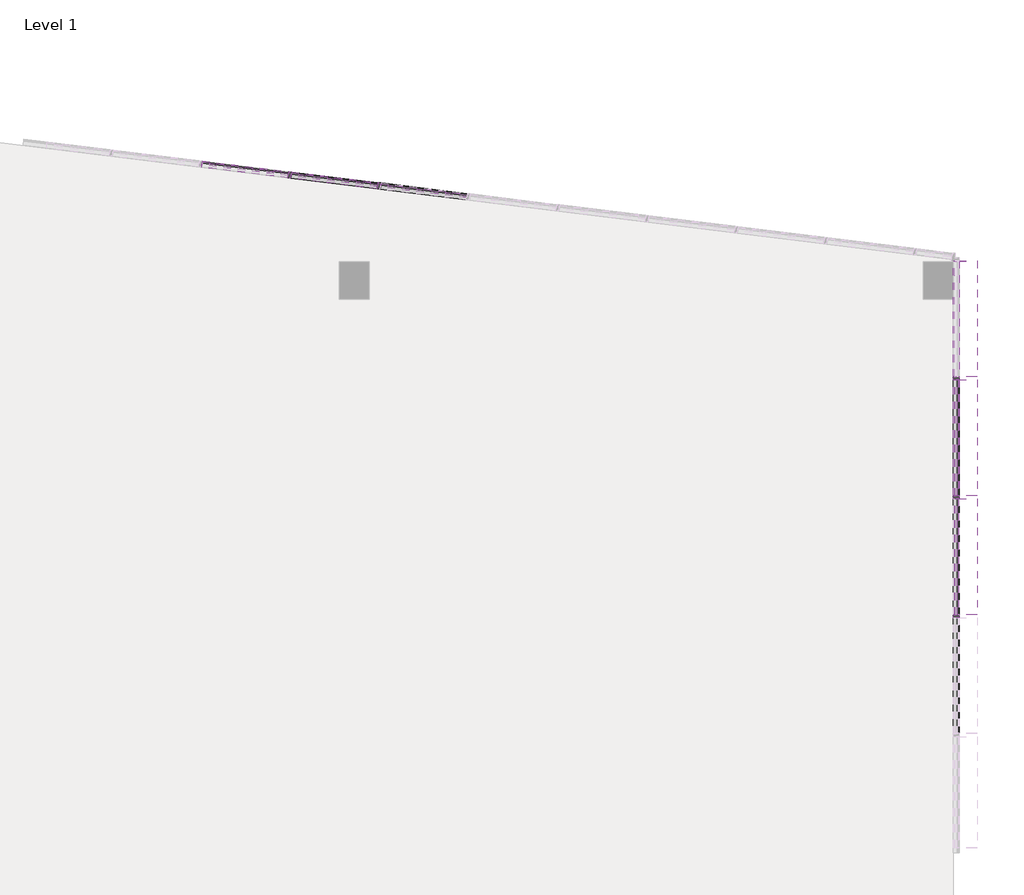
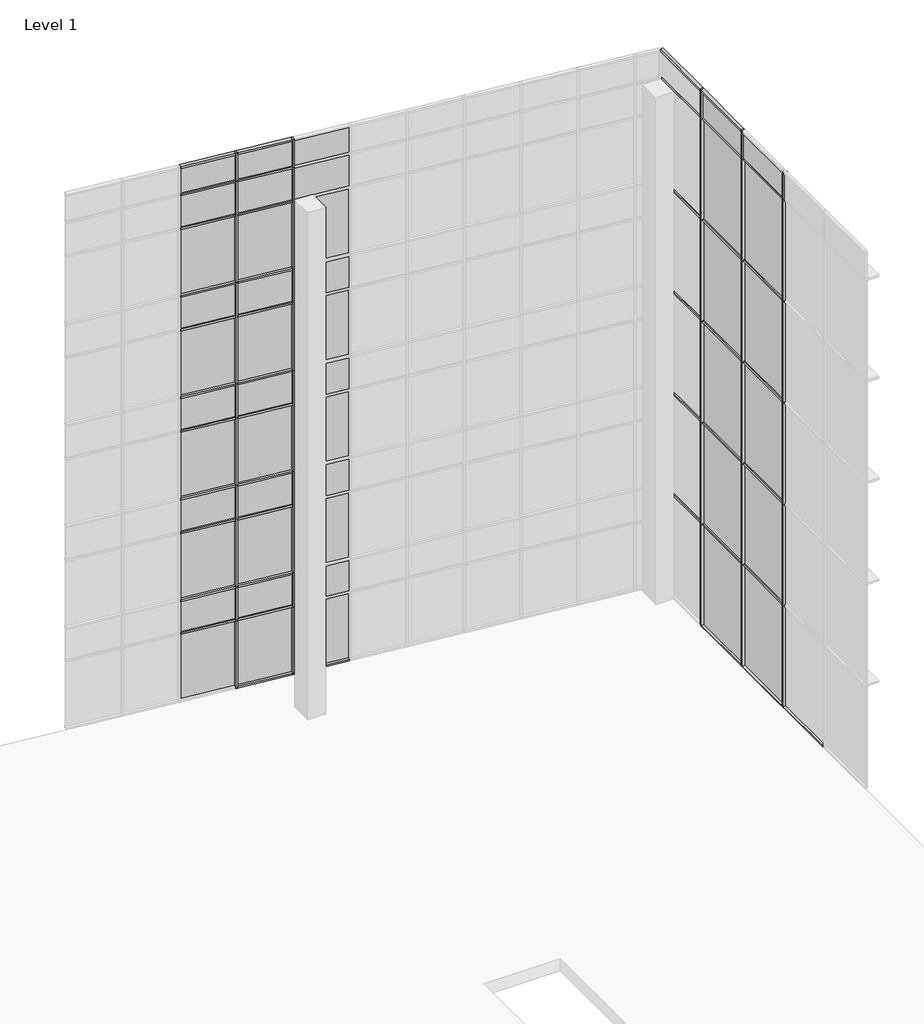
# One storey, part 20 of 23: 76 members, 45 plates.
"""IFC4 building model written with IfcOpenShell, lengths in millimetres."""

from ifc_helpers import new_model, si_unit, origin, place, context, project, spatial, transform, mapped, element, save
from components import member_148ee976, member_07e69ef0, member_2b49869a, member_f92b8aa2, member_810865a4, member_f0fea5a5, member_6d5c3e5e, member_90793d7c, member_64b167af, member_9764dd38, system_panel_glazed_14c75400, system_panel_glazed_b79bd3cf, system_panel_solid_5dfe6f83, system_panel_solid_e25e2004, system_panel_solid_b7551183, system_panel_solid_52d708f1

model = new_model("IFC4")

# Units and contexts
model_context = context("Model", 3, world=origin())
ifc_project = project(units=[si_unit("LENGTHUNIT", "METRE", prefix="MILLI")], contexts=[model_context])

# Site, building, storey
site = spatial("IfcSite", under=ifc_project)
building = spatial("IfcBuilding", under=site)
storey = spatial("IfcBuildingStorey", under=building, Name="Level 1", Elevation=0.0)

# Members
placement = place(None, origin())
member_shape = member_148ee976(model_context)
element("IfcMember", 1, ObjectType="Quad Corner Mullion : 5\" x 5\" Quad Corner", at=placement, inside=storey, context=model_context, shape_type="MappedRepresentation", body=[
    mapped(member_shape, transform((15106.8054088, 5157.5443531, 19304.0), x_axis=(0.0, 0.0, 1.0), y_axis=(-1.0, 0.0, 0.0), z_axis=(0.0, -1.0, 0.0))),
])
element("IfcMember", 2, ObjectType="Quad Corner Mullion : 5\" x 5\" Quad Corner", at=placement, inside=storey, context=model_context, shape_type="MappedRepresentation", body=[
    mapped(member_shape, transform((15106.8054088, 7574.7965033, 19304.0), x_axis=(0.0, 0.0, 1.0), y_axis=(-1.0, 0.0, 0.0), z_axis=(0.0, -1.0, 0.0))),
])
element("IfcMember", 3, ObjectType="Quad Corner Mullion : 5\" x 5\" Quad Corner", at=placement, inside=storey, context=model_context, shape_type="MappedRepresentation", body=[
    mapped(member_shape, transform((15106.8054088, 2676.7922028, 0.0), x_axis=(0.0, 0.0, -1.0), y_axis=(-1.0, 0.0, 0.0), z_axis=(0.0, 1.0, 0.0))),
])
element("IfcMember", 4, ObjectType="Quad Corner Mullion : 5\" x 5\" Quad Corner", at=placement, inside=storey, context=model_context, shape_type="MappedRepresentation", body=[
    mapped(member_shape, transform((15106.8054088, 5094.0443531, 0.0), x_axis=(0.0, 0.0, -1.0), y_axis=(-1.0, 0.0, 0.0), z_axis=(0.0, 1.0, 0.0))),
])
element("IfcMember", 5, ObjectType="Quad Corner Mullion : 5\" x 5\" Quad Corner", at=placement, inside=storey, context=model_context, shape_type="MappedRepresentation", body=[
    mapped(member_shape, transform((15106.8054088, 7511.2965033, 0.0), x_axis=(0.0, 0.0, -1.0), y_axis=(-1.0, 0.0, 0.0), z_axis=(0.0, 1.0, 0.0))),
])
member_2_shape = member_07e69ef0(model_context)
element("IfcMember", 6, ObjectType="Rectangular Mullion : 2.5\" x 18\" rectangular", at=placement, inside=storey, context=model_context, shape_type="MappedRepresentation", body=[
    mapped(member_2_shape, transform((15106.8054088, 7574.7965033, 3666.6228811), x_axis=(0.0, 0.0, 1.0), y_axis=(-1.0, 0.0, 0.0), z_axis=(0.0, -1.0, 0.0))),
])
element("IfcMember", 7, ObjectType="Rectangular Mullion : 2.5\" x 18\" rectangular", at=placement, inside=storey, context=model_context, shape_type="MappedRepresentation", body=[
    mapped(member_2_shape, transform((15106.8054088, 7574.7965033, 7324.2228811), x_axis=(0.0, 0.0, 1.0), y_axis=(-1.0, 0.0, 0.0), z_axis=(0.0, -1.0, 0.0))),
])
element("IfcMember", 8, ObjectType="Rectangular Mullion : 2.5\" x 18\" rectangular", at=placement, inside=storey, context=model_context, shape_type="MappedRepresentation", body=[
    mapped(member_2_shape, transform((15106.8054088, 7574.7965033, 10981.8228811), x_axis=(0.0, 0.0, 1.0), y_axis=(-1.0, 0.0, 0.0), z_axis=(0.0, -1.0, 0.0))),
])
element("IfcMember", 9, ObjectType="Rectangular Mullion : 2.5\" x 18\" rectangular", at=placement, inside=storey, context=model_context, shape_type="MappedRepresentation", body=[
    mapped(member_2_shape, transform((15106.8054088, 7574.7965033, 14639.4228811), x_axis=(0.0, 0.0, 1.0), y_axis=(-1.0, 0.0, 0.0), z_axis=(0.0, -1.0, 0.0))),
])
element("IfcMember", 10, ObjectType="Rectangular Mullion : 2.5\" x 18\" rectangular", at=placement, inside=storey, context=model_context, shape_type="MappedRepresentation", body=[
    mapped(member_2_shape, transform((15106.8054088, 7574.7965033, 18297.0228811), x_axis=(0.0, 0.0, 1.0), y_axis=(-1.0, 0.0, 0.0), z_axis=(0.0, -1.0, 0.0))),
])
element("IfcMember", 11, ObjectType="Rectangular Mullion : 2.5\" x 18\" rectangular", at=placement, inside=storey, context=model_context, shape_type="MappedRepresentation", body=[
    mapped(member_2_shape, transform((15106.8054088, 2740.2922028, 3666.6228811), x_axis=(0.0, 0.0, 1.0), y_axis=(-1.0, 0.0, 0.0), z_axis=(0.0, -1.0, 0.0))),
])
element("IfcMember", 12, ObjectType="Rectangular Mullion : 2.5\" x 18\" rectangular", at=placement, inside=storey, context=model_context, shape_type="MappedRepresentation", body=[
    mapped(member_2_shape, transform((15106.8054088, 5157.5443531, 3666.6228811), x_axis=(0.0, 0.0, 1.0), y_axis=(-1.0, 0.0, 0.0), z_axis=(0.0, -1.0, 0.0))),
])
element("IfcMember", 13, ObjectType="Rectangular Mullion : 2.5\" x 18\" rectangular", at=placement, inside=storey, context=model_context, shape_type="MappedRepresentation", body=[
    mapped(member_2_shape, transform((15106.8054088, 2740.2922028, 7324.2228811), x_axis=(0.0, 0.0, 1.0), y_axis=(-1.0, 0.0, 0.0), z_axis=(0.0, -1.0, 0.0))),
])
element("IfcMember", 14, ObjectType="Rectangular Mullion : 2.5\" x 18\" rectangular", at=placement, inside=storey, context=model_context, shape_type="MappedRepresentation", body=[
    mapped(member_2_shape, transform((15106.8054088, 5157.5443531, 7324.2228811), x_axis=(0.0, 0.0, 1.0), y_axis=(-1.0, 0.0, 0.0), z_axis=(0.0, -1.0, 0.0))),
])
element("IfcMember", 15, ObjectType="Rectangular Mullion : 2.5\" x 18\" rectangular", at=placement, inside=storey, context=model_context, shape_type="MappedRepresentation", body=[
    mapped(member_2_shape, transform((15106.8054088, 2740.2922028, 10981.8228811), x_axis=(0.0, 0.0, 1.0), y_axis=(-1.0, 0.0, 0.0), z_axis=(0.0, -1.0, 0.0))),
])
element("IfcMember", 16, ObjectType="Rectangular Mullion : 2.5\" x 18\" rectangular", at=placement, inside=storey, context=model_context, shape_type="MappedRepresentation", body=[
    mapped(member_2_shape, transform((15106.8054088, 5157.5443531, 10981.8228811), x_axis=(0.0, 0.0, 1.0), y_axis=(-1.0, 0.0, 0.0), z_axis=(0.0, -1.0, 0.0))),
])
element("IfcMember", 17, ObjectType="Rectangular Mullion : 2.5\" x 18\" rectangular", at=placement, inside=storey, context=model_context, shape_type="MappedRepresentation", body=[
    mapped(member_2_shape, transform((15106.8054088, 2740.2922028, 14639.4228811), x_axis=(0.0, 0.0, 1.0), y_axis=(-1.0, 0.0, 0.0), z_axis=(0.0, -1.0, 0.0))),
])
element("IfcMember", 18, ObjectType="Rectangular Mullion : 2.5\" x 18\" rectangular", at=placement, inside=storey, context=model_context, shape_type="MappedRepresentation", body=[
    mapped(member_2_shape, transform((15106.8054088, 5157.5443531, 14639.4228811), x_axis=(0.0, 0.0, 1.0), y_axis=(-1.0, 0.0, 0.0), z_axis=(0.0, -1.0, 0.0))),
])
element("IfcMember", 19, ObjectType="Rectangular Mullion : 2.5\" x 18\" rectangular", at=placement, inside=storey, context=model_context, shape_type="MappedRepresentation", body=[
    mapped(member_2_shape, transform((15106.8054088, 2740.2922028, 18297.0228811), x_axis=(0.0, 0.0, 1.0), y_axis=(-1.0, 0.0, 0.0), z_axis=(0.0, -1.0, 0.0))),
])
element("IfcMember", 20, ObjectType="Rectangular Mullion : 2.5\" x 18\" rectangular", at=placement, inside=storey, context=model_context, shape_type="MappedRepresentation", body=[
    mapped(member_2_shape, transform((15106.8054088, 5157.5443531, 18297.0228811), x_axis=(0.0, 0.0, 1.0), y_axis=(-1.0, 0.0, 0.0), z_axis=(0.0, -1.0, 0.0))),
])
member_3_shape = member_2b49869a(model_context)
element("IfcMember", 21, ObjectType="Rectangular Mullion : 2.5\" x 5\" rectangular", at=placement, inside=storey, context=model_context, shape_type="MappedRepresentation", body=[
    mapped(member_3_shape, transform((3375.3424535, 11456.9212356, 2438.4), x_axis=(0.9925461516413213, -0.12186934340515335, 0.0), y_axis=(-0.12186934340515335, -0.9925461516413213, 0.0), z_axis=(0.0, 0.0, -1.0))),
])
element("IfcMember", 22, ObjectType="Rectangular Mullion : 2.5\" x 5\" rectangular", at=placement, inside=storey, context=model_context, shape_type="MappedRepresentation", body=[
    mapped(member_3_shape, transform((1560.1740514, 11679.7958909, 2438.4), x_axis=(0.9925461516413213, -0.12186934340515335, 0.0), y_axis=(-0.12186934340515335, -0.9925461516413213, 0.0), z_axis=(0.0, 0.0, -1.0))),
])
member_4_shape = member_f92b8aa2(model_context)
element("IfcMember", 23, ObjectType="Rectangular Mullion : 2.5\" x 5\" rectangular", at=placement, inside=storey, context=model_context, shape_type="MappedRepresentation", body=[
    mapped(member_4_shape, transform((3375.3424535, 11456.9212356, 18288.0), x_axis=(0.9925461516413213, -0.12186934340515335, 0.0), y_axis=(-0.12186934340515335, -0.9925461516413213, 0.0), z_axis=(0.0, 0.0, -1.0))),
])
element("IfcMember", 24, ObjectType="Rectangular Mullion : 2.5\" x 5\" rectangular", at=placement, inside=storey, context=model_context, shape_type="MappedRepresentation", body=[
    mapped(member_4_shape, transform((1560.1740514, 11679.7958909, 18288.0), x_axis=(0.9925461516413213, -0.12186934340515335, 0.0), y_axis=(-0.12186934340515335, -0.9925461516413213, 0.0), z_axis=(0.0, 0.0, -1.0))),
])
member_5_shape = member_810865a4(model_context)
element("IfcMember", 25, ObjectType="Rectangular Mullion : 2.5\" x 5\" rectangular", at=placement, inside=storey, context=model_context, shape_type="MappedRepresentation", body=[
    mapped(member_5_shape, transform((3375.3424535, 11456.9212356, 14630.4), x_axis=(0.9925461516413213, -0.12186934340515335, 0.0), y_axis=(-0.12186934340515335, -0.9925461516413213, 0.0), z_axis=(0.0, 0.0, -1.0))),
])
element("IfcMember", 26, ObjectType="Rectangular Mullion : 2.5\" x 5\" rectangular", at=placement, inside=storey, context=model_context, shape_type="MappedRepresentation", body=[
    mapped(member_5_shape, transform((3375.3424535, 11456.9212356, 10972.8), x_axis=(0.9925461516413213, -0.12186934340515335, 0.0), y_axis=(-0.12186934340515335, -0.9925461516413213, 0.0), z_axis=(0.0, 0.0, -1.0))),
])
element("IfcMember", 27, ObjectType="Rectangular Mullion : 2.5\" x 5\" rectangular", at=placement, inside=storey, context=model_context, shape_type="MappedRepresentation", body=[
    mapped(member_5_shape, transform((3375.3424535, 11456.9212356, 7315.2), x_axis=(0.9925461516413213, -0.12186934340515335, 0.0), y_axis=(-0.12186934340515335, -0.9925461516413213, 0.0), z_axis=(0.0, 0.0, -1.0))),
])
element("IfcMember", 28, ObjectType="Rectangular Mullion : 2.5\" x 5\" rectangular", at=placement, inside=storey, context=model_context, shape_type="MappedRepresentation", body=[
    mapped(member_5_shape, transform((3375.3424535, 11456.9212356, 3657.6), x_axis=(0.9925461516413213, -0.12186934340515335, 0.0), y_axis=(-0.12186934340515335, -0.9925461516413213, 0.0), z_axis=(0.0, 0.0, -1.0))),
])
element("IfcMember", 29, ObjectType="Rectangular Mullion : 2.5\" x 5\" rectangular", at=placement, inside=storey, context=model_context, shape_type="MappedRepresentation", body=[
    mapped(member_5_shape, transform((1560.1740514, 11679.7958909, 14630.4), x_axis=(0.9925461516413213, -0.12186934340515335, 0.0), y_axis=(-0.12186934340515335, -0.9925461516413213, 0.0), z_axis=(0.0, 0.0, -1.0))),
])
element("IfcMember", 30, ObjectType="Rectangular Mullion : 2.5\" x 5\" rectangular", at=placement, inside=storey, context=model_context, shape_type="MappedRepresentation", body=[
    mapped(member_5_shape, transform((1560.1740514, 11679.7958909, 10972.8), x_axis=(0.9925461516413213, -0.12186934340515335, 0.0), y_axis=(-0.12186934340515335, -0.9925461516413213, 0.0), z_axis=(0.0, 0.0, -1.0))),
])
element("IfcMember", 31, ObjectType="Rectangular Mullion : 2.5\" x 5\" rectangular", at=placement, inside=storey, context=model_context, shape_type="MappedRepresentation", body=[
    mapped(member_5_shape, transform((1560.1740514, 11679.7958909, 7315.2), x_axis=(0.9925461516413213, -0.12186934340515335, 0.0), y_axis=(-0.12186934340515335, -0.9925461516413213, 0.0), z_axis=(0.0, 0.0, -1.0))),
])
element("IfcMember", 32, ObjectType="Rectangular Mullion : 2.5\" x 5\" rectangular", at=placement, inside=storey, context=model_context, shape_type="MappedRepresentation", body=[
    mapped(member_5_shape, transform((1560.1740514, 11679.7958909, 3657.6), x_axis=(0.9925461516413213, -0.12186934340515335, 0.0), y_axis=(-0.12186934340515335, -0.9925461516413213, 0.0), z_axis=(0.0, 0.0, -1.0))),
])
element("IfcMember", 33, ObjectType="Rectangular Mullion : 2.5\" x 5\" rectangular", at=placement, inside=storey, context=model_context, shape_type="MappedRepresentation", body=[
    mapped(member_5_shape, transform((15106.8054088, 5125.7943531, 3666.6228811), x_axis=(0.0, -1.0, 0.0), y_axis=(-1.0, 0.0, 0.0), z_axis=(0.0, 0.0, -1.0))),
])
element("IfcMember", 34, ObjectType="Rectangular Mullion : 2.5\" x 5\" rectangular", at=placement, inside=storey, context=model_context, shape_type="MappedRepresentation", body=[
    mapped(member_5_shape, transform((15106.8054088, 7543.0465033, 3666.6228811), x_axis=(0.0, -1.0, 0.0), y_axis=(-1.0, 0.0, 0.0), z_axis=(0.0, 0.0, -1.0))),
])
element("IfcMember", 35, ObjectType="Rectangular Mullion : 2.5\" x 5\" rectangular", at=placement, inside=storey, context=model_context, shape_type="MappedRepresentation", body=[
    mapped(member_5_shape, transform((15106.8054088, 2708.5422028, 3666.6228811), x_axis=(0.0, -1.0, 0.0), y_axis=(-1.0, 0.0, 0.0), z_axis=(0.0, 0.0, -1.0))),
])
element("IfcMember", 36, ObjectType="Rectangular Mullion : 2.5\" x 5\" rectangular", at=placement, inside=storey, context=model_context, shape_type="MappedRepresentation", body=[
    mapped(member_5_shape, transform((15106.8054088, 5125.7943531, 7324.2228811), x_axis=(0.0, -1.0, 0.0), y_axis=(-1.0, 0.0, 0.0), z_axis=(0.0, 0.0, -1.0))),
])
element("IfcMember", 37, ObjectType="Rectangular Mullion : 2.5\" x 5\" rectangular", at=placement, inside=storey, context=model_context, shape_type="MappedRepresentation", body=[
    mapped(member_5_shape, transform((15106.8054088, 7543.0465033, 7324.2228811), x_axis=(0.0, -1.0, 0.0), y_axis=(-1.0, 0.0, 0.0), z_axis=(0.0, 0.0, -1.0))),
])
element("IfcMember", 38, ObjectType="Rectangular Mullion : 2.5\" x 5\" rectangular", at=placement, inside=storey, context=model_context, shape_type="MappedRepresentation", body=[
    mapped(member_5_shape, transform((15106.8054088, 2708.5422028, 7324.2228811), x_axis=(0.0, -1.0, 0.0), y_axis=(-1.0, 0.0, 0.0), z_axis=(0.0, 0.0, -1.0))),
])
element("IfcMember", 39, ObjectType="Rectangular Mullion : 2.5\" x 5\" rectangular", at=placement, inside=storey, context=model_context, shape_type="MappedRepresentation", body=[
    mapped(member_5_shape, transform((15106.8054088, 5125.7943531, 10981.8228811), x_axis=(0.0, -1.0, 0.0), y_axis=(-1.0, 0.0, 0.0), z_axis=(0.0, 0.0, -1.0))),
])
element("IfcMember", 40, ObjectType="Rectangular Mullion : 2.5\" x 5\" rectangular", at=placement, inside=storey, context=model_context, shape_type="MappedRepresentation", body=[
    mapped(member_5_shape, transform((15106.8054088, 7543.0465033, 10981.8228811), x_axis=(0.0, -1.0, 0.0), y_axis=(-1.0, 0.0, 0.0), z_axis=(0.0, 0.0, -1.0))),
])
element("IfcMember", 41, ObjectType="Rectangular Mullion : 2.5\" x 5\" rectangular", at=placement, inside=storey, context=model_context, shape_type="MappedRepresentation", body=[
    mapped(member_5_shape, transform((15106.8054088, 2708.5422028, 10981.8228811), x_axis=(0.0, -1.0, 0.0), y_axis=(-1.0, 0.0, 0.0), z_axis=(0.0, 0.0, -1.0))),
])
element("IfcMember", 42, ObjectType="Rectangular Mullion : 2.5\" x 5\" rectangular", at=placement, inside=storey, context=model_context, shape_type="MappedRepresentation", body=[
    mapped(member_5_shape, transform((15106.8054088, 5125.7943531, 14639.4228811), x_axis=(0.0, -1.0, 0.0), y_axis=(-1.0, 0.0, 0.0), z_axis=(0.0, 0.0, -1.0))),
])
element("IfcMember", 43, ObjectType="Rectangular Mullion : 2.5\" x 5\" rectangular", at=placement, inside=storey, context=model_context, shape_type="MappedRepresentation", body=[
    mapped(member_5_shape, transform((15106.8054088, 7543.0465033, 14639.4228811), x_axis=(0.0, -1.0, 0.0), y_axis=(-1.0, 0.0, 0.0), z_axis=(0.0, 0.0, -1.0))),
])
element("IfcMember", 44, ObjectType="Rectangular Mullion : 2.5\" x 5\" rectangular", at=placement, inside=storey, context=model_context, shape_type="MappedRepresentation", body=[
    mapped(member_5_shape, transform((15106.8054088, 2708.5422028, 14639.4228811), x_axis=(0.0, -1.0, 0.0), y_axis=(-1.0, 0.0, 0.0), z_axis=(0.0, 0.0, -1.0))),
])
member_6_shape = member_f0fea5a5(model_context)
element("IfcMember", 45, ObjectType="Rectangular Mullion : 2.5\" x 5\" rectangular", at=placement, inside=storey, context=model_context, shape_type="MappedRepresentation", body=[
    mapped(member_6_shape, transform((3375.3424535, 11456.9212356, 0.0), x_axis=(0.9925461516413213, -0.12186934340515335, 0.0), y_axis=(-0.12186934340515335, -0.9925461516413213, 0.0), z_axis=(0.0, 0.0, -1.0))),
])
element("IfcMember", 46, ObjectType="Rectangular Mullion : 2.5\" x 5\" rectangular", at=placement, inside=storey, context=model_context, shape_type="MappedRepresentation", body=[
    mapped(member_6_shape, transform((1560.1740514, 11679.7958909, 0.0), x_axis=(0.9925461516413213, -0.12186934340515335, 0.0), y_axis=(-0.12186934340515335, -0.9925461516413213, 0.0), z_axis=(0.0, 0.0, -1.0))),
])
member_7_shape = member_6d5c3e5e(model_context)
element("IfcMember", 47, ObjectType="Rectangular Mullion : 2.5\" x 5\" rectangular", at=placement, inside=storey, context=model_context, shape_type="MappedRepresentation", body=[
    mapped(member_7_shape, transform((3343.8291132, 11460.7905873, 19304.0), x_axis=(0.0, 0.0, 1.0), y_axis=(-0.12186934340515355, -0.9925461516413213, 0.0), z_axis=(0.9925461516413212, -0.12186934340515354, 0.0))),
])
element("IfcMember", 48, ObjectType="Rectangular Mullion : 2.5\" x 5\" rectangular", at=placement, inside=storey, context=model_context, shape_type="MappedRepresentation", body=[
    mapped(member_7_shape, transform((1528.6607111, 11683.6652425, 19304.0), x_axis=(0.0, 0.0, 1.0), y_axis=(-0.12186934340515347, -0.9925461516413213, 0.0), z_axis=(0.9925461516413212, -0.12186934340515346, 0.0))),
])
member_8_shape = member_90793d7c(model_context)
element("IfcMember", 49, ObjectType="Rectangular Mullion : 2.5\" x 5\" rectangular", at=placement, inside=storey, context=model_context, shape_type="MappedRepresentation", body=[
    mapped(member_8_shape, transform((15106.8054088, 5125.7943531, 0.0), x_axis=(0.0, -1.0, 0.0), y_axis=(-1.0, 0.0, 0.0), z_axis=(0.0, 0.0, -1.0))),
])
element("IfcMember", 50, ObjectType="Rectangular Mullion : 2.5\" x 5\" rectangular", at=placement, inside=storey, context=model_context, shape_type="MappedRepresentation", body=[
    mapped(member_8_shape, transform((15106.8054088, 7543.0465033, 0.0), x_axis=(0.0, -1.0, 0.0), y_axis=(-1.0, 0.0, 0.0), z_axis=(0.0, 0.0, -1.0))),
])
element("IfcMember", 51, ObjectType="Rectangular Mullion : 2.5\" x 5\" rectangular", at=placement, inside=storey, context=model_context, shape_type="MappedRepresentation", body=[
    mapped(member_8_shape, transform((15106.8054088, 2708.5422028, 0.0), x_axis=(0.0, -1.0, 0.0), y_axis=(-1.0, 0.0, 0.0), z_axis=(0.0, 0.0, -1.0))),
])
member_9_shape = member_64b167af(model_context)
element("IfcMember", 52, ObjectType="Rectangular Mullion : 2.5\" x 5\" rectangular", at=placement, inside=storey, context=model_context, shape_type="MappedRepresentation", body=[
    mapped(member_9_shape, transform((15106.8054088, 5125.7943531, 18297.0228811), x_axis=(0.0, -1.0, 0.0), y_axis=(-1.0, 0.0, 0.0), z_axis=(0.0, 0.0, -1.0))),
])
element("IfcMember", 53, ObjectType="Rectangular Mullion : 2.5\" x 5\" rectangular", at=placement, inside=storey, context=model_context, shape_type="MappedRepresentation", body=[
    mapped(member_9_shape, transform((15106.8054088, 7543.0465033, 18297.0228811), x_axis=(0.0, -1.0, 0.0), y_axis=(-1.0, 0.0, 0.0), z_axis=(0.0, 0.0, -1.0))),
])
element("IfcMember", 54, ObjectType="Rectangular Mullion : 2.5\" x 5\" rectangular", at=placement, inside=storey, context=model_context, shape_type="MappedRepresentation", body=[
    mapped(member_9_shape, transform((15106.8054088, 2708.5422028, 18297.0228811), x_axis=(0.0, -1.0, 0.0), y_axis=(-1.0, 0.0, 0.0), z_axis=(0.0, 0.0, -1.0))),
])
member_10_shape = member_9764dd38(model_context)
element("IfcMember", 55, ObjectType="Rectangular Mullion : 2.5\" x 5\" rectangular", at=placement, inside=storey, context=model_context, shape_type="MappedRepresentation", body=[
    mapped(member_10_shape, transform((3343.8291132, 11460.7905873, 17068.8), x_axis=(0.0, 0.0, 1.0), y_axis=(-0.1218693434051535, -0.9925461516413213, 0.0), z_axis=(0.9925461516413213, -0.1218693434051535, 0.0))),
])
element("IfcMember", 56, ObjectType="Rectangular Mullion : 2.5\" x 5\" rectangular", at=placement, inside=storey, context=model_context, shape_type="MappedRepresentation", body=[
    mapped(member_10_shape, transform((1528.6607111, 11683.6652425, 17068.8), x_axis=(0.0, 0.0, 1.0), y_axis=(-0.1218693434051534, -0.9925461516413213, 0.0), z_axis=(0.9925461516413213, -0.1218693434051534, 0.0))),
])
element("IfcMember", 57, ObjectType="Rectangular Mullion : 2.5\" x 5\" rectangular", at=placement, inside=storey, context=model_context, shape_type="MappedRepresentation", body=[
    mapped(member_10_shape, transform((3343.8291132, 11460.7905873, 13411.2), x_axis=(0.0, 0.0, 1.0), y_axis=(-0.12186934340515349, -0.9925461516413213, 0.0), z_axis=(0.9925461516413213, -0.12186934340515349, 0.0))),
])
element("IfcMember", 58, ObjectType="Rectangular Mullion : 2.5\" x 5\" rectangular", at=placement, inside=storey, context=model_context, shape_type="MappedRepresentation", body=[
    mapped(member_10_shape, transform((1528.6607111, 11683.6652425, 13411.2), x_axis=(0.0, 0.0, 1.0), y_axis=(-0.1218693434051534, -0.9925461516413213, 0.0), z_axis=(0.9925461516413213, -0.1218693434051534, 0.0))),
])
element("IfcMember", 59, ObjectType="Rectangular Mullion : 2.5\" x 5\" rectangular", at=placement, inside=storey, context=model_context, shape_type="MappedRepresentation", body=[
    mapped(member_10_shape, transform((3343.8291132, 11460.7905873, 9753.6), x_axis=(0.0, 0.0, 1.0), y_axis=(-0.12186934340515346, -0.9925461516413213, 0.0), z_axis=(0.9925461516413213, -0.12186934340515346, 0.0))),
])
element("IfcMember", 60, ObjectType="Rectangular Mullion : 2.5\" x 5\" rectangular", at=placement, inside=storey, context=model_context, shape_type="MappedRepresentation", body=[
    mapped(member_10_shape, transform((1528.6607111, 11683.6652425, 9753.6), x_axis=(0.0, 0.0, 1.0), y_axis=(-0.1218693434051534, -0.9925461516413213, 0.0), z_axis=(0.9925461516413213, -0.1218693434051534, 0.0))),
])
element("IfcMember", 61, ObjectType="Rectangular Mullion : 2.5\" x 5\" rectangular", at=placement, inside=storey, context=model_context, shape_type="MappedRepresentation", body=[
    mapped(member_10_shape, transform((3343.8291132, 11460.7905873, 6096.0), x_axis=(0.0, 0.0, 1.0), y_axis=(-0.12186934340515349, -0.9925461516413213, 0.0), z_axis=(0.9925461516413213, -0.12186934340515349, 0.0))),
])
element("IfcMember", 62, ObjectType="Rectangular Mullion : 2.5\" x 5\" rectangular", at=placement, inside=storey, context=model_context, shape_type="MappedRepresentation", body=[
    mapped(member_10_shape, transform((1528.6607111, 11683.6652425, 6096.0), x_axis=(0.0, 0.0, 1.0), y_axis=(-0.1218693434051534, -0.9925461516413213, 0.0), z_axis=(0.9925461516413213, -0.1218693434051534, 0.0))),
])
element("IfcMember", 63, ObjectType="Rectangular Mullion : 2.5\" x 5\" rectangular", at=placement, inside=storey, context=model_context, shape_type="MappedRepresentation", body=[
    mapped(member_10_shape, transform((3343.8291132, 11460.7905873, 2470.15), x_axis=(0.0, 0.0, 1.0), y_axis=(-0.12186934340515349, -0.9925461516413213, 0.0), z_axis=(0.9925461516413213, -0.12186934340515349, 0.0))),
])
element("IfcMember", 64, ObjectType="Rectangular Mullion : 2.5\" x 5\" rectangular", at=placement, inside=storey, context=model_context, shape_type="MappedRepresentation", body=[
    mapped(member_10_shape, transform((1528.6607111, 11683.6652425, 2470.15), x_axis=(0.0, 0.0, 1.0), y_axis=(-0.1218693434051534, -0.9925461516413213, 0.0), z_axis=(0.9925461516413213, -0.1218693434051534, 0.0))),
])
element("IfcMember", 65, ObjectType="Rectangular Mullion : 2.5\" x 5\" rectangular", at=placement, inside=storey, context=model_context, shape_type="MappedRepresentation", body=[
    mapped(member_7_shape, transform((3406.8557938, 11453.051884, 0.0), x_axis=(0.0, 0.0, -1.0), y_axis=(-0.12186934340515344, -0.9925461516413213, 0.0), z_axis=(-0.9925461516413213, 0.12186934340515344, 0.0))),
])
element("IfcMember", 66, ObjectType="Rectangular Mullion : 2.5\" x 5\" rectangular", at=placement, inside=storey, context=model_context, shape_type="MappedRepresentation", body=[
    mapped(member_7_shape, transform((1591.6873917, 11675.9265392, 0.0), x_axis=(0.0, 0.0, -1.0), y_axis=(-0.12186934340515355, -0.9925461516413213, 0.0), z_axis=(-0.9925461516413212, 0.12186934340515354, 0.0))),
])
element("IfcMember", 67, ObjectType="Rectangular Mullion : 2.5\" x 5\" rectangular", at=placement, inside=storey, context=model_context, shape_type="MappedRepresentation", body=[
    mapped(member_10_shape, transform((3343.8291132, 11460.7905873, 3657.6), x_axis=(0.0, 0.0, 1.0), y_axis=(-0.12186934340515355, -0.9925461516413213, 0.0), z_axis=(0.9925461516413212, -0.12186934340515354, 0.0))),
])
element("IfcMember", 68, ObjectType="Rectangular Mullion : 2.5\" x 5\" rectangular", at=placement, inside=storey, context=model_context, shape_type="MappedRepresentation", body=[
    mapped(member_10_shape, transform((1528.6607111, 11683.6652425, 3657.6), x_axis=(0.0, 0.0, 1.0), y_axis=(-0.12186934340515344, -0.9925461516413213, 0.0), z_axis=(0.9925461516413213, -0.12186934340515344, 0.0))),
])
element("IfcMember", 69, ObjectType="Rectangular Mullion : 2.5\" x 5\" rectangular", at=placement, inside=storey, context=model_context, shape_type="MappedRepresentation", body=[
    mapped(member_10_shape, transform((3343.8291132, 11460.7905873, 10972.8), x_axis=(0.0, 0.0, 1.0), y_axis=(-0.12186934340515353, -0.9925461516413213, 0.0), z_axis=(0.9925461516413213, -0.12186934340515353, 0.0))),
])
element("IfcMember", 70, ObjectType="Rectangular Mullion : 2.5\" x 5\" rectangular", at=placement, inside=storey, context=model_context, shape_type="MappedRepresentation", body=[
    mapped(member_10_shape, transform((1528.6607111, 11683.6652425, 10972.8), x_axis=(0.0, 0.0, 1.0), y_axis=(-0.12186934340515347, -0.9925461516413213, 0.0), z_axis=(0.9925461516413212, -0.12186934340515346, 0.0))),
])
element("IfcMember", 71, ObjectType="Rectangular Mullion : 2.5\" x 5\" rectangular", at=placement, inside=storey, context=model_context, shape_type="MappedRepresentation", body=[
    mapped(member_10_shape, transform((3343.8291132, 11460.7905873, 14630.4), x_axis=(0.0, 0.0, 1.0), y_axis=(-0.12186934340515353, -0.9925461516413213, 0.0), z_axis=(0.9925461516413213, -0.12186934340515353, 0.0))),
])
element("IfcMember", 72, ObjectType="Rectangular Mullion : 2.5\" x 5\" rectangular", at=placement, inside=storey, context=model_context, shape_type="MappedRepresentation", body=[
    mapped(member_10_shape, transform((1528.6607111, 11683.6652425, 14630.4), x_axis=(0.0, 0.0, 1.0), y_axis=(-0.12186934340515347, -0.9925461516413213, 0.0), z_axis=(0.9925461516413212, -0.12186934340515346, 0.0))),
])
element("IfcMember", 73, ObjectType="Rectangular Mullion : 2.5\" x 5\" rectangular", at=placement, inside=storey, context=model_context, shape_type="MappedRepresentation", body=[
    mapped(member_10_shape, transform((3343.8291132, 11460.7905873, 7315.2), x_axis=(0.0, 0.0, 1.0), y_axis=(-0.12186934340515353, -0.9925461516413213, 0.0), z_axis=(0.9925461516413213, -0.12186934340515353, 0.0))),
])
element("IfcMember", 74, ObjectType="Rectangular Mullion : 2.5\" x 5\" rectangular", at=placement, inside=storey, context=model_context, shape_type="MappedRepresentation", body=[
    mapped(member_10_shape, transform((1528.6607111, 11683.6652425, 7315.2), x_axis=(0.0, 0.0, 1.0), y_axis=(-0.12186934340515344, -0.9925461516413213, 0.0), z_axis=(0.9925461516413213, -0.12186934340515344, 0.0))),
])
element("IfcMember", 75, ObjectType="Rectangular Mullion : 2.5\" x 5\" rectangular", at=placement, inside=storey, context=model_context, shape_type="MappedRepresentation", body=[
    mapped(member_10_shape, transform((3343.8291132, 11460.7905873, 18288.0), x_axis=(0.0, 0.0, 1.0), y_axis=(-0.12186934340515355, -0.9925461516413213, 0.0), z_axis=(0.9925461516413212, -0.12186934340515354, 0.0))),
])
element("IfcMember", 76, ObjectType="Rectangular Mullion : 2.5\" x 5\" rectangular", at=placement, inside=storey, context=model_context, shape_type="MappedRepresentation", body=[
    mapped(member_10_shape, transform((1528.6607111, 11683.6652425, 18288.0), x_axis=(0.0, 0.0, 1.0), y_axis=(-0.12186934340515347, -0.9925461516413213, 0.0), z_axis=(0.9925461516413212, -0.12186934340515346, 0.0))),
])

# Plates
system_panel_glazed_shape = system_panel_glazed_14c75400(model_context)
element("IfcPlate", 77, ObjectType="System Panel : Glazed", at=placement, inside=storey, context=model_context, shape_type="MappedRepresentation", body=[
    mapped(system_panel_glazed_shape, transform((4282.9266546, 11345.483908, 14662.15), x_axis=(0.9925461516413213, -0.12186934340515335, 0.0), y_axis=(0.12186934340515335, 0.9925461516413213, 0.0), z_axis=(0.0, 0.0, 1.0))),
])
element("IfcPlate", 78, ObjectType="System Panel : Glazed", at=placement, inside=storey, context=model_context, shape_type="MappedRepresentation", body=[
    mapped(system_panel_glazed_shape, transform((2467.7582524, 11568.3585633, 14662.15), x_axis=(0.9925461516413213, -0.12186934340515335, 0.0), y_axis=(0.12186934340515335, 0.9925461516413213, 0.0), z_axis=(0.0, 0.0, 1.0))),
])
element("IfcPlate", 79, ObjectType="System Panel : Glazed", at=placement, inside=storey, context=model_context, shape_type="MappedRepresentation", body=[
    mapped(system_panel_glazed_shape, transform((652.5898503, 11791.2332185, 14662.15), x_axis=(0.9925461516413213, -0.12186934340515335, 0.0), y_axis=(0.12186934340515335, 0.9925461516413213, 0.0), z_axis=(0.0, 0.0, 1.0))),
])
element("IfcPlate", 80, ObjectType="System Panel : Glazed", at=placement, inside=storey, context=model_context, shape_type="MappedRepresentation", body=[
    mapped(system_panel_glazed_shape, transform((4282.9266546, 11345.483908, 11004.55), x_axis=(0.9925461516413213, -0.12186934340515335, 0.0), y_axis=(0.12186934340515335, 0.9925461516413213, 0.0), z_axis=(0.0, 0.0, 1.0))),
])
element("IfcPlate", 81, ObjectType="System Panel : Glazed", at=placement, inside=storey, context=model_context, shape_type="MappedRepresentation", body=[
    mapped(system_panel_glazed_shape, transform((2467.7582524, 11568.3585633, 11004.55), x_axis=(0.9925461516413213, -0.12186934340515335, 0.0), y_axis=(0.12186934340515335, 0.9925461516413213, 0.0), z_axis=(0.0, 0.0, 1.0))),
])
element("IfcPlate", 82, ObjectType="System Panel : Glazed", at=placement, inside=storey, context=model_context, shape_type="MappedRepresentation", body=[
    mapped(system_panel_glazed_shape, transform((652.5898503, 11791.2332185, 11004.55), x_axis=(0.9925461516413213, -0.12186934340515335, 0.0), y_axis=(0.12186934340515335, 0.9925461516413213, 0.0), z_axis=(0.0, 0.0, 1.0))),
])
element("IfcPlate", 83, ObjectType="System Panel : Glazed", at=placement, inside=storey, context=model_context, shape_type="MappedRepresentation", body=[
    mapped(system_panel_glazed_shape, transform((4282.9266546, 11345.483908, 7346.95), x_axis=(0.9925461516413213, -0.12186934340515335, 0.0), y_axis=(0.12186934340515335, 0.9925461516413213, 0.0), z_axis=(0.0, 0.0, 1.0))),
])
element("IfcPlate", 84, ObjectType="System Panel : Glazed", at=placement, inside=storey, context=model_context, shape_type="MappedRepresentation", body=[
    mapped(system_panel_glazed_shape, transform((2467.7582524, 11568.3585633, 7346.95), x_axis=(0.9925461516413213, -0.12186934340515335, 0.0), y_axis=(0.12186934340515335, 0.9925461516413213, 0.0), z_axis=(0.0, 0.0, 1.0))),
])
element("IfcPlate", 85, ObjectType="System Panel : Glazed", at=placement, inside=storey, context=model_context, shape_type="MappedRepresentation", body=[
    mapped(system_panel_glazed_shape, transform((652.5898503, 11791.2332185, 7346.95), x_axis=(0.9925461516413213, -0.12186934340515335, 0.0), y_axis=(0.12186934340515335, 0.9925461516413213, 0.0), z_axis=(0.0, 0.0, 1.0))),
])
element("IfcPlate", 86, ObjectType="System Panel : Glazed", at=placement, inside=storey, context=model_context, shape_type="MappedRepresentation", body=[
    mapped(system_panel_glazed_shape, transform((4282.9266546, 11345.483908, 3689.35), x_axis=(0.9925461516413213, -0.12186934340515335, 0.0), y_axis=(0.12186934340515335, 0.9925461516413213, 0.0), z_axis=(0.0, 0.0, 1.0))),
])
element("IfcPlate", 87, ObjectType="System Panel : Glazed", at=placement, inside=storey, context=model_context, shape_type="MappedRepresentation", body=[
    mapped(system_panel_glazed_shape, transform((2467.7582524, 11568.3585633, 3689.35), x_axis=(0.9925461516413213, -0.12186934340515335, 0.0), y_axis=(0.12186934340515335, 0.9925461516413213, 0.0), z_axis=(0.0, 0.0, 1.0))),
])
element("IfcPlate", 88, ObjectType="System Panel : Glazed", at=placement, inside=storey, context=model_context, shape_type="MappedRepresentation", body=[
    mapped(system_panel_glazed_shape, transform((652.5898503, 11791.2332185, 3689.35), x_axis=(0.9925461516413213, -0.12186934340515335, 0.0), y_axis=(0.12186934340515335, 0.9925461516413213, 0.0), z_axis=(0.0, 0.0, 1.0))),
])
element("IfcPlate", 89, ObjectType="System Panel : Glazed", at=placement, inside=storey, context=model_context, shape_type="MappedRepresentation", body=[
    mapped(system_panel_glazed_shape, transform((4282.9266546, 11345.483908, 63.5), x_axis=(0.9925461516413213, -0.12186934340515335, 0.0), y_axis=(0.12186934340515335, 0.9925461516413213, 0.0), z_axis=(0.0, 0.0, 1.0))),
])
element("IfcPlate", 90, ObjectType="System Panel : Glazed", at=placement, inside=storey, context=model_context, shape_type="MappedRepresentation", body=[
    mapped(system_panel_glazed_shape, transform((2467.7582524, 11568.3585633, 63.5), x_axis=(0.9925461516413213, -0.12186934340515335, 0.0), y_axis=(0.12186934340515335, 0.9925461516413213, 0.0), z_axis=(0.0, 0.0, 1.0))),
])
element("IfcPlate", 91, ObjectType="System Panel : Glazed", at=placement, inside=storey, context=model_context, shape_type="MappedRepresentation", body=[
    mapped(system_panel_glazed_shape, transform((652.5898503, 11791.2332185, 63.5), x_axis=(0.9925461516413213, -0.12186934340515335, 0.0), y_axis=(0.12186934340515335, 0.9925461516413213, 0.0), z_axis=(0.0, 0.0, 1.0))),
])
system_panel_glazed_2_shape = system_panel_glazed_b79bd3cf(model_context)
element("IfcPlate", 92, ObjectType="System Panel : Glazed", at=placement, inside=storey, context=model_context, shape_type="MappedRepresentation", body=[
    mapped(system_panel_glazed_2_shape, transform((15106.8054088, 6334.4204282, 40.7728811), x_axis=(0.0, -1.0, 0.0), y_axis=(1.0, 0.0, 0.0), z_axis=(0.0, 0.0, 1.0))),
])
element("IfcPlate", 93, ObjectType="System Panel : Glazed", at=placement, inside=storey, context=model_context, shape_type="MappedRepresentation", body=[
    mapped(system_panel_glazed_2_shape, transform((15106.8054088, 6334.4204282, 3698.3728811), x_axis=(0.0, -1.0, 0.0), y_axis=(1.0, 0.0, 0.0), z_axis=(0.0, 0.0, 1.0))),
])
element("IfcPlate", 94, ObjectType="System Panel : Glazed", at=placement, inside=storey, context=model_context, shape_type="MappedRepresentation", body=[
    mapped(system_panel_glazed_2_shape, transform((15106.8054088, 6334.4204282, 7355.9728811), x_axis=(0.0, -1.0, 0.0), y_axis=(1.0, 0.0, 0.0), z_axis=(0.0, 0.0, 1.0))),
])
element("IfcPlate", 95, ObjectType="System Panel : Glazed", at=placement, inside=storey, context=model_context, shape_type="MappedRepresentation", body=[
    mapped(system_panel_glazed_2_shape, transform((15106.8054088, 6334.4204282, 11013.5728811), x_axis=(0.0, -1.0, 0.0), y_axis=(1.0, 0.0, 0.0), z_axis=(0.0, 0.0, 1.0))),
])
element("IfcPlate", 96, ObjectType="System Panel : Glazed", at=placement, inside=storey, context=model_context, shape_type="MappedRepresentation", body=[
    mapped(system_panel_glazed_2_shape, transform((15106.8054088, 6334.4204282, 14671.1728811), x_axis=(0.0, -1.0, 0.0), y_axis=(1.0, 0.0, 0.0), z_axis=(0.0, 0.0, 1.0))),
])
element("IfcPlate", 97, ObjectType="System Panel : Glazed", at=placement, inside=storey, context=model_context, shape_type="MappedRepresentation", body=[
    mapped(system_panel_glazed_2_shape, transform((15106.8054088, 3917.1682779, 40.7728811), x_axis=(0.0, -1.0, 0.0), y_axis=(1.0, 0.0, 0.0), z_axis=(0.0, 0.0, 1.0))),
])
element("IfcPlate", 98, ObjectType="System Panel : Glazed", at=placement, inside=storey, context=model_context, shape_type="MappedRepresentation", body=[
    mapped(system_panel_glazed_2_shape, transform((15106.8054088, 3917.1682779, 3698.3728811), x_axis=(0.0, -1.0, 0.0), y_axis=(1.0, 0.0, 0.0), z_axis=(0.0, 0.0, 1.0))),
])
element("IfcPlate", 99, ObjectType="System Panel : Glazed", at=placement, inside=storey, context=model_context, shape_type="MappedRepresentation", body=[
    mapped(system_panel_glazed_2_shape, transform((15106.8054088, 3917.1682779, 7355.9728811), x_axis=(0.0, -1.0, 0.0), y_axis=(1.0, 0.0, 0.0), z_axis=(0.0, 0.0, 1.0))),
])
element("IfcPlate", 100, ObjectType="System Panel : Glazed", at=placement, inside=storey, context=model_context, shape_type="MappedRepresentation", body=[
    mapped(system_panel_glazed_2_shape, transform((15106.8054088, 3917.1682779, 11013.5728811), x_axis=(0.0, -1.0, 0.0), y_axis=(1.0, 0.0, 0.0), z_axis=(0.0, 0.0, 1.0))),
])
element("IfcPlate", 101, ObjectType="System Panel : Glazed", at=placement, inside=storey, context=model_context, shape_type="MappedRepresentation", body=[
    mapped(system_panel_glazed_2_shape, transform((15106.8054088, 3917.1682779, 14671.1728811), x_axis=(0.0, -1.0, 0.0), y_axis=(1.0, 0.0, 0.0), z_axis=(0.0, 0.0, 1.0))),
])
system_panel_solid_shape = system_panel_solid_5dfe6f83(model_context)
element("IfcPlate", 102, ObjectType="System Panel : Solid", at=placement, inside=storey, context=model_context, shape_type="MappedRepresentation", body=[
    mapped(system_panel_solid_shape, transform((652.5898503, 11791.2332185, 18319.75), x_axis=(0.9925461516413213, -0.12186934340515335, 0.0), y_axis=(0.12186934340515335, 0.9925461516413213, 0.0), z_axis=(0.0, 0.0, 1.0))),
])
element("IfcPlate", 103, ObjectType="System Panel : Solid", at=placement, inside=storey, context=model_context, shape_type="MappedRepresentation", body=[
    mapped(system_panel_solid_shape, transform((2467.7582524, 11568.3585633, 18319.75), x_axis=(0.9925461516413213, -0.12186934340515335, 0.0), y_axis=(0.12186934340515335, 0.9925461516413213, 0.0), z_axis=(0.0, 0.0, 1.0))),
])
element("IfcPlate", 104, ObjectType="System Panel : Solid", at=placement, inside=storey, context=model_context, shape_type="MappedRepresentation", body=[
    mapped(system_panel_solid_shape, transform((4282.9266546, 11345.483908, 18319.75), x_axis=(0.9925461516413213, -0.12186934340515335, 0.0), y_axis=(0.12186934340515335, 0.9925461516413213, 0.0), z_axis=(0.0, 0.0, 1.0))),
])
system_panel_solid_2_shape = system_panel_solid_e25e2004(model_context)
element("IfcPlate", 105, ObjectType="System Panel : Solid", at=placement, inside=storey, context=model_context, shape_type="MappedRepresentation", body=[
    mapped(system_panel_solid_2_shape, transform((4282.9266546, 11345.483908, 17100.55), x_axis=(0.9925461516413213, -0.12186934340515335, 0.0), y_axis=(0.12186934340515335, 0.9925461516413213, 0.0), z_axis=(0.0, 0.0, 1.0))),
])
element("IfcPlate", 106, ObjectType="System Panel : Solid", at=placement, inside=storey, context=model_context, shape_type="MappedRepresentation", body=[
    mapped(system_panel_solid_2_shape, transform((2467.7582524, 11568.3585633, 17100.55), x_axis=(0.9925461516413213, -0.12186934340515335, 0.0), y_axis=(0.12186934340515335, 0.9925461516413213, 0.0), z_axis=(0.0, 0.0, 1.0))),
])
element("IfcPlate", 107, ObjectType="System Panel : Solid", at=placement, inside=storey, context=model_context, shape_type="MappedRepresentation", body=[
    mapped(system_panel_solid_2_shape, transform((652.5898503, 11791.2332185, 17100.55), x_axis=(0.9925461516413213, -0.12186934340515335, 0.0), y_axis=(0.12186934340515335, 0.9925461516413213, 0.0), z_axis=(0.0, 0.0, 1.0))),
])
element("IfcPlate", 108, ObjectType="System Panel : Solid", at=placement, inside=storey, context=model_context, shape_type="MappedRepresentation", body=[
    mapped(system_panel_solid_2_shape, transform((4282.9266546, 11345.483908, 13442.95), x_axis=(0.9925461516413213, -0.12186934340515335, 0.0), y_axis=(0.12186934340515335, 0.9925461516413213, 0.0), z_axis=(0.0, 0.0, 1.0))),
])
element("IfcPlate", 109, ObjectType="System Panel : Solid", at=placement, inside=storey, context=model_context, shape_type="MappedRepresentation", body=[
    mapped(system_panel_solid_2_shape, transform((2467.7582524, 11568.3585633, 13442.95), x_axis=(0.9925461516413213, -0.12186934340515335, 0.0), y_axis=(0.12186934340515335, 0.9925461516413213, 0.0), z_axis=(0.0, 0.0, 1.0))),
])
element("IfcPlate", 110, ObjectType="System Panel : Solid", at=placement, inside=storey, context=model_context, shape_type="MappedRepresentation", body=[
    mapped(system_panel_solid_2_shape, transform((652.5898503, 11791.2332185, 13442.95), x_axis=(0.9925461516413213, -0.12186934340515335, 0.0), y_axis=(0.12186934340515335, 0.9925461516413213, 0.0), z_axis=(0.0, 0.0, 1.0))),
])
element("IfcPlate", 111, ObjectType="System Panel : Solid", at=placement, inside=storey, context=model_context, shape_type="MappedRepresentation", body=[
    mapped(system_panel_solid_2_shape, transform((4282.9266546, 11345.483908, 9785.35), x_axis=(0.9925461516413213, -0.12186934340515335, 0.0), y_axis=(0.12186934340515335, 0.9925461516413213, 0.0), z_axis=(0.0, 0.0, 1.0))),
])
element("IfcPlate", 112, ObjectType="System Panel : Solid", at=placement, inside=storey, context=model_context, shape_type="MappedRepresentation", body=[
    mapped(system_panel_solid_2_shape, transform((2467.7582524, 11568.3585633, 9785.35), x_axis=(0.9925461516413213, -0.12186934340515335, 0.0), y_axis=(0.12186934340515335, 0.9925461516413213, 0.0), z_axis=(0.0, 0.0, 1.0))),
])
element("IfcPlate", 113, ObjectType="System Panel : Solid", at=placement, inside=storey, context=model_context, shape_type="MappedRepresentation", body=[
    mapped(system_panel_solid_2_shape, transform((652.5898503, 11791.2332185, 9785.35), x_axis=(0.9925461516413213, -0.12186934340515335, 0.0), y_axis=(0.12186934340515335, 0.9925461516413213, 0.0), z_axis=(0.0, 0.0, 1.0))),
])
element("IfcPlate", 114, ObjectType="System Panel : Solid", at=placement, inside=storey, context=model_context, shape_type="MappedRepresentation", body=[
    mapped(system_panel_solid_2_shape, transform((4282.9266546, 11345.483908, 6127.75), x_axis=(0.9925461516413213, -0.12186934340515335, 0.0), y_axis=(0.12186934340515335, 0.9925461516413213, 0.0), z_axis=(0.0, 0.0, 1.0))),
])
element("IfcPlate", 115, ObjectType="System Panel : Solid", at=placement, inside=storey, context=model_context, shape_type="MappedRepresentation", body=[
    mapped(system_panel_solid_2_shape, transform((2467.7582524, 11568.3585633, 6127.75), x_axis=(0.9925461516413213, -0.12186934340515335, 0.0), y_axis=(0.12186934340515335, 0.9925461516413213, 0.0), z_axis=(0.0, 0.0, 1.0))),
])
element("IfcPlate", 116, ObjectType="System Panel : Solid", at=placement, inside=storey, context=model_context, shape_type="MappedRepresentation", body=[
    mapped(system_panel_solid_2_shape, transform((652.5898503, 11791.2332185, 6127.75), x_axis=(0.9925461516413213, -0.12186934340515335, 0.0), y_axis=(0.12186934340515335, 0.9925461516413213, 0.0), z_axis=(0.0, 0.0, 1.0))),
])
system_panel_solid_3_shape = system_panel_solid_b7551183(model_context)
element("IfcPlate", 117, ObjectType="System Panel : Solid", at=placement, inside=storey, context=model_context, shape_type="MappedRepresentation", body=[
    mapped(system_panel_solid_3_shape, transform((4282.9266546, 11345.483908, 2501.9), x_axis=(0.9925461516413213, -0.12186934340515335, 0.0), y_axis=(0.12186934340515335, 0.9925461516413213, 0.0), z_axis=(0.0, 0.0, 1.0))),
])
element("IfcPlate", 118, ObjectType="System Panel : Solid", at=placement, inside=storey, context=model_context, shape_type="MappedRepresentation", body=[
    mapped(system_panel_solid_3_shape, transform((2467.7582524, 11568.3585633, 2501.9), x_axis=(0.9925461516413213, -0.12186934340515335, 0.0), y_axis=(0.12186934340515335, 0.9925461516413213, 0.0), z_axis=(0.0, 0.0, 1.0))),
])
element("IfcPlate", 119, ObjectType="System Panel : Solid", at=placement, inside=storey, context=model_context, shape_type="MappedRepresentation", body=[
    mapped(system_panel_solid_3_shape, transform((652.5898503, 11791.2332185, 2501.9), x_axis=(0.9925461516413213, -0.12186934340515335, 0.0), y_axis=(0.12186934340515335, 0.9925461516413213, 0.0), z_axis=(0.0, 0.0, 1.0))),
])
system_panel_solid_4_shape = system_panel_solid_52d708f1(model_context)
element("IfcPlate", 120, ObjectType="System Panel : Solid", at=placement, inside=storey, context=model_context, shape_type="MappedRepresentation", body=[
    mapped(system_panel_solid_4_shape, transform((15106.8054088, 6334.4204282, 18328.7728811), x_axis=(0.0, -1.0, 0.0), y_axis=(1.0, 0.0, 0.0), z_axis=(0.0, 0.0, 1.0))),
])
element("IfcPlate", 121, ObjectType="System Panel : Solid", at=placement, inside=storey, context=model_context, shape_type="MappedRepresentation", body=[
    mapped(system_panel_solid_4_shape, transform((15106.8054088, 3917.1682779, 18328.7728811), x_axis=(0.0, -1.0, 0.0), y_axis=(1.0, 0.0, 0.0), z_axis=(0.0, 0.0, 1.0))),
])

save(model, "model.ifc")
